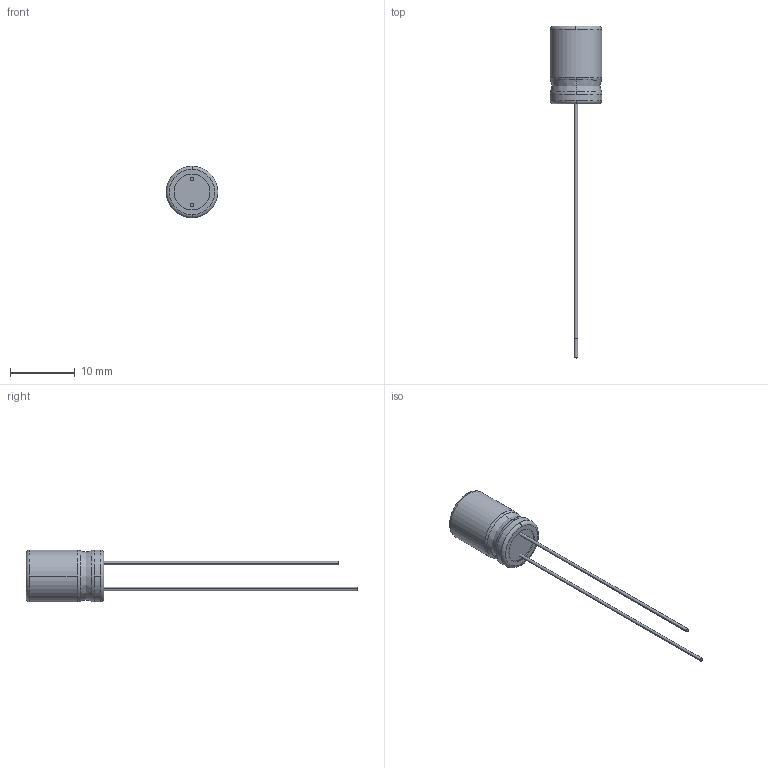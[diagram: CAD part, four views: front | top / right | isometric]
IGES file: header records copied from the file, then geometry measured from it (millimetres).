
Global section: file name: No Iges File Name specified; native system: Autodesk Inventor 2011; preprocessor: AutoDesk Inventor Iges Exporter R2011; author: Lance; date: 20130313.070515; units: millimetre
Bounding box: 8 x 51.2 x 8 mm (x, y, z)
Volume: 598.9 mm3; surface area: 1176.5 mm2
Topology: 3 solids, 3 shells, 84 faces, 212 edges, 133 vertices
Faces by surface type: torus 20, cylinder 20, revolution 19, bspline 12, plane 10, sphere 3
